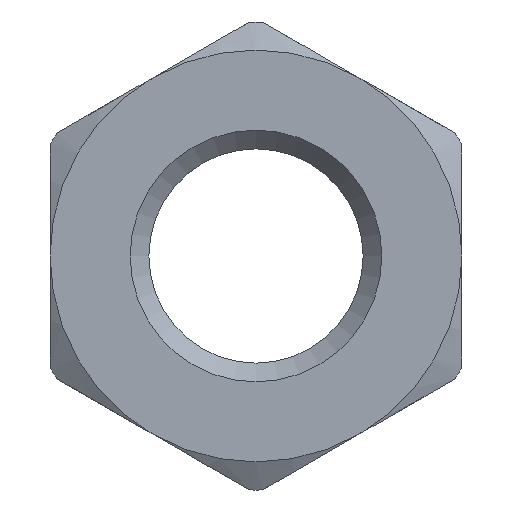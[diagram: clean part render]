
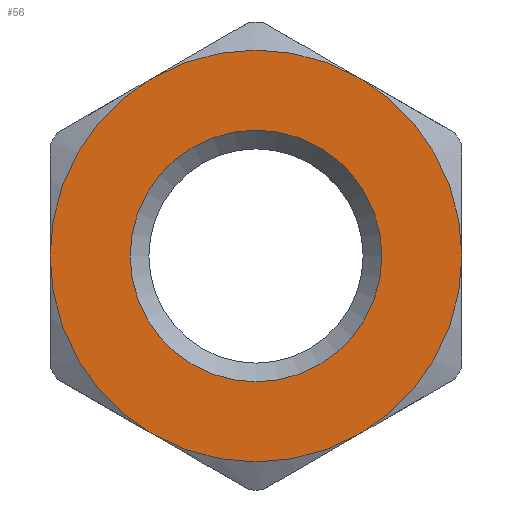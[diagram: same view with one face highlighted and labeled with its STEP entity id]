
A CAD part, front view. The second image highlights one B-rep face of the part: STEP entity #56.
In plain terms, the highlighted planar face has unit normal (0, -1, 0).
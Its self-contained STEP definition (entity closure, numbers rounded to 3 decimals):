
#56=ADVANCED_FACE('',(#154,#156),#158,.F.);
#154=FACE_BOUND('',#155,.T.);
#155=EDGE_LOOP('',(#322,#323,#324,#325,#326,#327));
#156=FACE_BOUND('',#157,.T.);
#157=EDGE_LOOP('',(#328));
#158=PLANE('',#159);
#159=AXIS2_PLACEMENT_3D('',#160,#161,#162);
#160=CARTESIAN_POINT('',(0.,0.,0.));
#161=DIRECTION('',(0.,1.,0.));
#162=DIRECTION('',(-1.,0.,0.));
#322=ORIENTED_EDGE('',*,*,#420,.T.);
#323=ORIENTED_EDGE('',*,*,#421,.T.);
#324=ORIENTED_EDGE('',*,*,#422,.T.);
#325=ORIENTED_EDGE('',*,*,#423,.T.);
#326=ORIENTED_EDGE('',*,*,#424,.T.);
#327=ORIENTED_EDGE('',*,*,#425,.T.);
#328=ORIENTED_EDGE('',*,*,#426,.T.);
#420=EDGE_CURVE('',#484,#472,#505,.F.);
#421=EDGE_CURVE('',#472,#460,#506,.F.);
#422=EDGE_CURVE('',#460,#448,#507,.F.);
#423=EDGE_CURVE('',#448,#434,#508,.F.);
#424=EDGE_CURVE('',#434,#496,#509,.F.);
#425=EDGE_CURVE('',#496,#484,#510,.F.);
#426=EDGE_CURVE('',#511,#511,#512,.F.);
#434=VERTEX_POINT('',#526);
#448=VERTEX_POINT('',#615);
#460=VERTEX_POINT('',#689);
#472=VERTEX_POINT('',#763);
#484=VERTEX_POINT('',#830);
#496=VERTEX_POINT('',#904);
#505=CIRCLE('',#973,11.);
#506=CIRCLE('',#977,11.);
#507=CIRCLE('',#981,11.);
#508=CIRCLE('',#985,11.);
#509=CIRCLE('',#989,11.);
#510=CIRCLE('',#993,11.);
#511=VERTEX_POINT('',#997);
#512=CIRCLE('',#998,6.722);
#526=CARTESIAN_POINT('',(-11.,0.,0.));
#615=CARTESIAN_POINT('',(-5.5,0.,9.526));
#689=CARTESIAN_POINT('',(5.5,0.,9.526));
#763=CARTESIAN_POINT('',(11.,0.,0.));
#830=CARTESIAN_POINT('',(5.5,0.,-9.526));
#904=CARTESIAN_POINT('',(-5.5,0.,-9.526));
#973=AXIS2_PLACEMENT_3D('',#974,#975,#976);
#974=CARTESIAN_POINT('',(0.,0.,0.));
#975=DIRECTION('',(0.,1.,0.));
#976=DIRECTION('',(1.,0.,0.));
#977=AXIS2_PLACEMENT_3D('',#978,#979,#980);
#978=CARTESIAN_POINT('',(0.,0.,0.));
#979=DIRECTION('',(0.,1.,0.));
#980=DIRECTION('',(0.5,0.,0.866));
#981=AXIS2_PLACEMENT_3D('',#982,#983,#984);
#982=CARTESIAN_POINT('',(0.,0.,0.));
#983=DIRECTION('',(0.,1.,0.));
#984=DIRECTION('',(-0.5,0.,0.866));
#985=AXIS2_PLACEMENT_3D('',#986,#987,#988);
#986=CARTESIAN_POINT('',(0.,0.,0.));
#987=DIRECTION('',(0.,1.,0.));
#988=DIRECTION('',(-1.,0.,0.));
#989=AXIS2_PLACEMENT_3D('',#990,#991,#992);
#990=CARTESIAN_POINT('',(0.,0.,0.));
#991=DIRECTION('',(0.,1.,0.));
#992=DIRECTION('',(-0.5,0.,-0.866));
#993=AXIS2_PLACEMENT_3D('',#994,#995,#996);
#994=CARTESIAN_POINT('',(0.,0.,0.));
#995=DIRECTION('',(0.,1.,0.));
#996=DIRECTION('',(0.5,0.,-0.866));
#997=CARTESIAN_POINT('',(6.722,0.,0.));
#998=AXIS2_PLACEMENT_3D('',#999,#1000,#1001);
#999=CARTESIAN_POINT('',(0.,0.,0.));
#1000=DIRECTION('',(0.,-1.,0.));
#1001=DIRECTION('',(1.,0.,0.));
